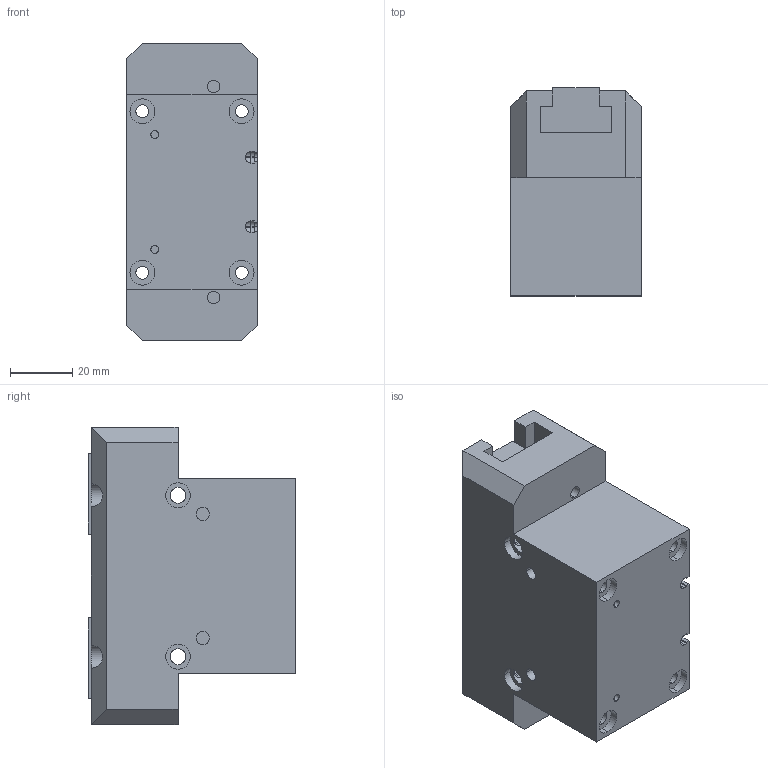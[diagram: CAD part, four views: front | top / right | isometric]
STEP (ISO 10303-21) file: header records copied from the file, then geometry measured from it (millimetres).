
FILE_DESCRIPTION (( 'STEP AP203' ), '1' );
FILE_NAME ('dh3516nc.STEP', '2011-08-03T08:31:44', ( 'Stefano' ), ( 'Gimatic' ), 'SwSTEP 2.0', 'SolidWorks 2010', '' );
FILE_SCHEMA (( 'CONFIG_CONTROL_DESIGN' ));
Length unit declared in the file: millimetre
Products named in the file (3): dh35_griffa; dh3516nc; dh35_corpoprolungato
Assembly tree (3 placements, depth 2):
  dh3516nc
    dh35_griffa  x2
    dh35_corpoprolungato
Bounding box: 42 x 67 x 96 mm (x, y, z)
Volume: 191320.9 mm3; surface area: 41309.3 mm2
Topology: 3 solids, 3 shells, 192 faces, 496 edges, 312 vertices
Faces by surface type: cylinder 90, plane 90, cone 8, sphere 4
Entity records: 5831 total; most frequent: CARTESIAN_POINT 1364, DIRECTION 878, ORIENTED_EDGE 852, EDGE_CURVE 426, AXIS2_PLACEMENT_3D 316, VERTEX_POINT 274, VECTOR 246, LINE 246
